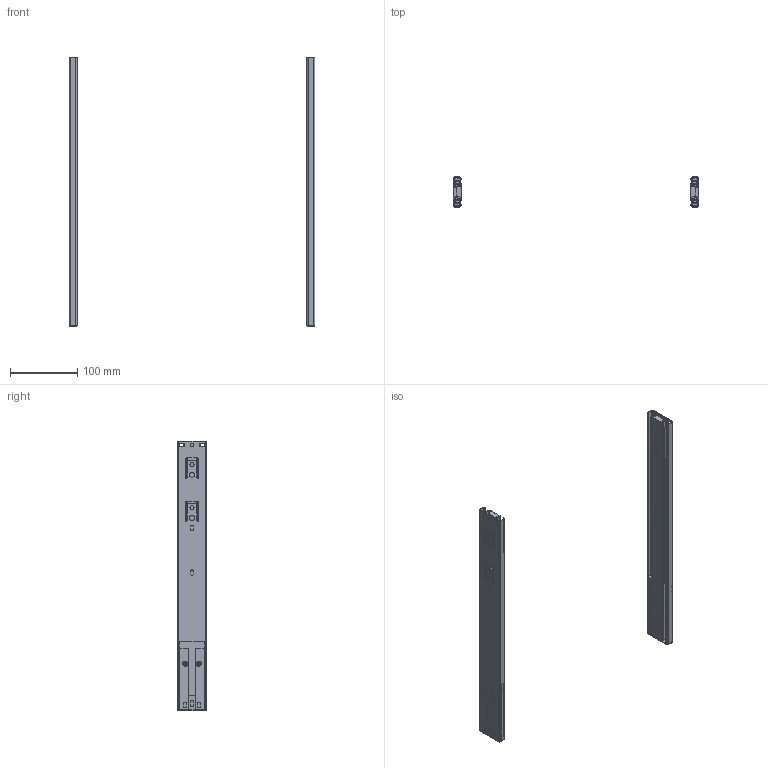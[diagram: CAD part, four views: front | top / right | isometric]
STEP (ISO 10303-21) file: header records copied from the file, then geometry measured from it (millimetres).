
FILE_DESCRIPTION(/* description */ (''),/* implementation_level */ '2;1');
FILE_NAME(/* name */ 'D:\$Workspace\Designs\Katalog\Cadsoft\GTV Prowadnice\PK-L-H45-_-GX\PK-L-H45-_-GX\PK-L-H45-400-GX.stp',/* time_stamp */ '2018-09-27T09:55:28+02:00',/* author */ ('PiotrMz'),/* organization */ (''),/* preprocessor_version */ 'ST-DEVELOPER v17',/* originating_system */ 'Autodesk Inventor 2019',/* authorisation */ '');
FILE_SCHEMA (('AUTOMOTIVE_DESIGN { 1 0 10303 214 3 1 1 }'));
Length unit declared in the file: millimetre
Products named in the file (6): PK-L-H45-400-GX; PK-L-H45_1-400-GX; PK-L-H45_2-400-GX; PK-L-H45_3-400-GX; PK-L-H45_4-_-GX; PK-L-H45_5-_-GX
Assembly tree (10 placements, depth 2):
  PK-L-H45-400-GX
    PK-L-H45_1-400-GX  x2
    PK-L-H45_2-400-GX  x2
    PK-L-H45_3-400-GX  x2
    PK-L-H45_4-_-GX  x2
    PK-L-H45_5-_-GX  x2
Bounding box: 364.2 x 44 x 400 mm (x, y, z)
Volume: 158234.1 mm3; surface area: 257721.4 mm2
Topology: 14 solids, 14 shells, 566 faces, 1628 edges, 1086 vertices
Faces by surface type: plane 334, cylinder 232
Full cylindrical faces by diameter (mm): 4.2 x4, 4.5 x6, 5 x4, 6 x4, 7 x4, 7.2 x4
Entity records: 10091 total; most frequent: CARTESIAN_POINT 1845, DIRECTION 1639, ORIENTED_EDGE 1628, EDGE_CURVE 814, LINE 569, VECTOR 569, VERTEX_POINT 543, AXIS2_PLACEMENT_3D 535
